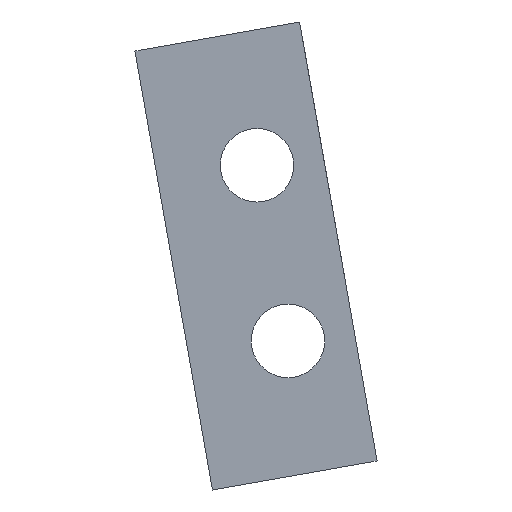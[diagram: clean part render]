
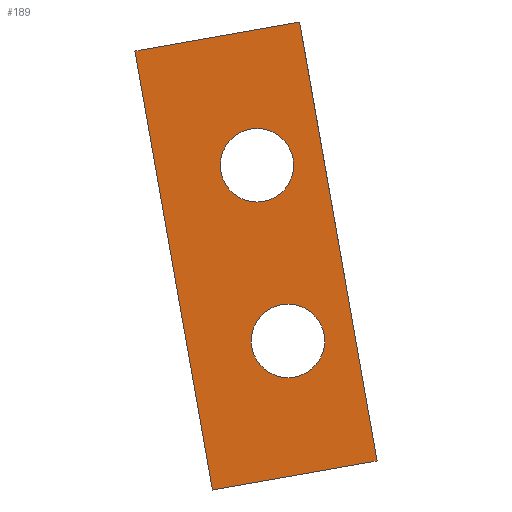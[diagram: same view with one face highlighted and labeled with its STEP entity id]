
A CAD part, left-side view. The second image highlights one B-rep face of the part: STEP entity #189.
In plain terms, the highlighted planar face has unit normal (-1, 0, 0).
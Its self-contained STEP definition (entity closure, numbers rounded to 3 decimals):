
#27=CARTESIAN_POINT('',(-378.5,-621.309,517.038));
#28=VERTEX_POINT('',#27);
#45=CARTESIAN_POINT('',(-378.5,-636.081,519.643));
#46=VERTEX_POINT('',#45);
#53=CARTESIAN_POINT('',(-378.5,-621.309,517.038));
#54=DIRECTION('',(0.0,-0.985,0.174));
#55=VECTOR('',#54,1.);
#56=LINE('',#53,#55);
#57=EDGE_CURVE('',#28,#46,#56,.T.);
#120=CARTESIAN_POINT('',(-378.5,-614.363,556.43));
#121=VERTEX_POINT('',#120);
#128=CARTESIAN_POINT('',(-378.5,-629.135,559.035));
#129=VERTEX_POINT('',#128);
#130=CARTESIAN_POINT('',(-378.5,-614.363,556.43));
#131=DIRECTION('',(0.0,-0.985,0.174));
#132=VECTOR('',#131,1.);
#133=LINE('',#130,#132);
#134=EDGE_CURVE('',#121,#129,#133,.T.);
#146=CARTESIAN_POINT('',(-378.5,-614.363,556.43));
#147=DIRECTION('',(-1.0,0.0,0.0));
#148=DIRECTION('',(0.0,-0.174,-0.985));
#149=AXIS2_PLACEMENT_3D('',#146,#147,#148);
#150=PLANE('',#149);
#151=CARTESIAN_POINT('',(-378.5,-614.363,556.43));
#152=DIRECTION('',(0.,-0.174,-0.985));
#153=VECTOR('',#152,1.);
#154=LINE('',#151,#153);
#155=EDGE_CURVE('',#121,#28,#154,.T.);
#156=ORIENTED_EDGE('',*,*,#155,.T.);
#157=ORIENTED_EDGE('',*,*,#57,.T.);
#158=CARTESIAN_POINT('',(-378.5,-629.135,559.035));
#159=DIRECTION('',(0.,-0.174,-0.985));
#160=VECTOR('',#159,1.);
#161=LINE('',#158,#160);
#162=EDGE_CURVE('',#129,#46,#161,.T.);
#163=ORIENTED_EDGE('',*,*,#162,.F.);
#164=ORIENTED_EDGE('',*,*,#134,.F.);
#165=EDGE_LOOP('',(#156,#157,#163,#164));
#166=FACE_OUTER_BOUND('',#165,.T.);
#167=CARTESIAN_POINT('',(-378.5,-627.516,533.668));
#168=VERTEX_POINT('',#167);
#169=CARTESIAN_POINT('',(-378.5,-628.089,530.418));
#170=DIRECTION('',(-1.0,0.,0.));
#171=DIRECTION('',(0.,0.174,0.985));
#172=AXIS2_PLACEMENT_3D('',#169,#170,#171);
#173=CIRCLE('',#172,3.3);
#174=EDGE_CURVE('',#168,#168,#173,.T.);
#175=ORIENTED_EDGE('',*,*,#174,.F.);
#176=EDGE_LOOP('',(#175));
#177=FACE_BOUND('',#176,.T.);
#178=CARTESIAN_POINT('',(-378.5,-624.737,549.425));
#179=VERTEX_POINT('',#178);
#180=CARTESIAN_POINT('',(-378.5,-625.31,546.175));
#181=DIRECTION('',(-1.0,0.,0.));
#182=DIRECTION('',(0.,0.174,0.985));
#183=AXIS2_PLACEMENT_3D('',#180,#181,#182);
#184=CIRCLE('',#183,3.3);
#185=EDGE_CURVE('',#179,#179,#184,.T.);
#186=ORIENTED_EDGE('',*,*,#185,.F.);
#187=EDGE_LOOP('',(#186));
#188=FACE_BOUND('',#187,.T.);
#189=ADVANCED_FACE('',(#166,#177,#188),#150,.T.);
